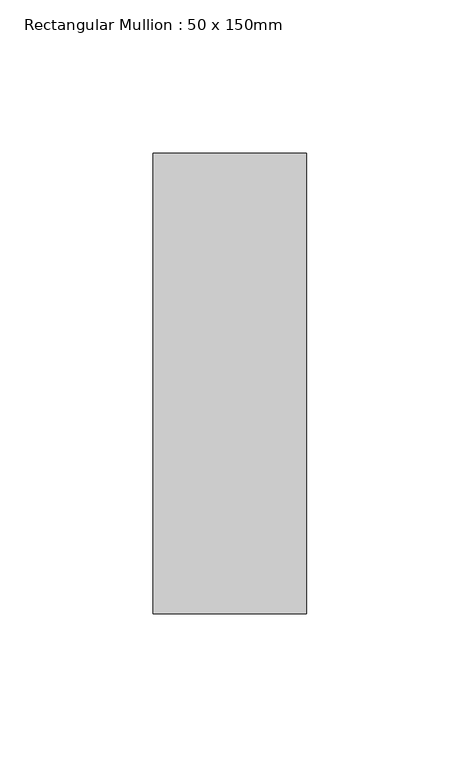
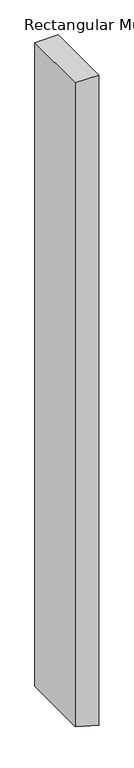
"""IFC4 building model written with IfcOpenShell, lengths in millimetres: member geometry, Rectangular Mullion : 50 x 150mm."""

from ifc_helpers import new_model, si_unit, frame, origin, place, context, project, spatial, polyline, outline, extrude, source, transform, mapped, element, save


def rectangular_mullion_50_x_150mm_a5df80ef(model_context):
    return source(origin(), model_context, "Body", "SweptSolid", [
        extrude(outline(polyline([(0.0, 0.0), (0.0, -50.0), (-1457.691337, -50.0), (-1472.4589142, 0.0), (0.0, 0.0)])), frame((0.0, -75.0, 0.0), z_axis=(0.0, 1.0, 0.0), x_axis=(0.0, 0.0, 1.0)), (0.0, 0.0, 1.0), 150.0),
    ])


if __name__ == "__main__":
    model = new_model("IFC4")
    model_context = context("Model", 3, world=origin())
    ifc_project = project(units=[si_unit("LENGTHUNIT", "METRE", prefix="MILLI")], contexts=[model_context])
    site = spatial("IfcSite", under=ifc_project)
    building = spatial("IfcBuilding", under=site)
    placement = place(None, origin())
    rectangular_mullion_50_x_150mm_shape = rectangular_mullion_50_x_150mm_a5df80ef(model_context)
    element("IfcMember", 1, ObjectType="Rectangular Mullion : 50 x 150mm", at=placement, inside=building, context=model_context, shape_type="MappedRepresentation", body=[
        mapped(rectangular_mullion_50_x_150mm_shape, transform((0.0, 0.0, 0.0), x_axis=(1.0, 0.0, 0.0), y_axis=(0.0, 1.0, 0.0), z_axis=(0.0, 0.0, 1.0))),
    ])
    save(model, "model.ifc")
